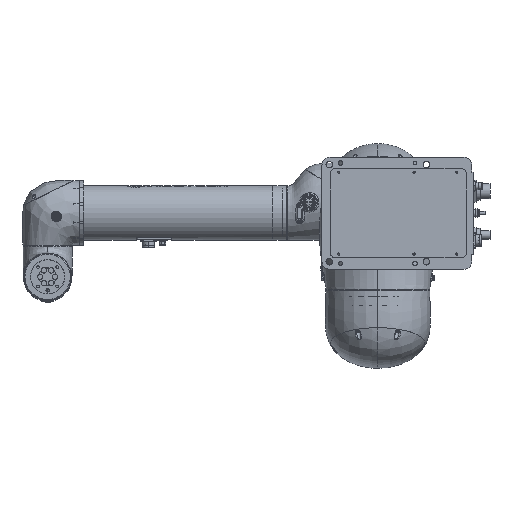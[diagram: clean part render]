
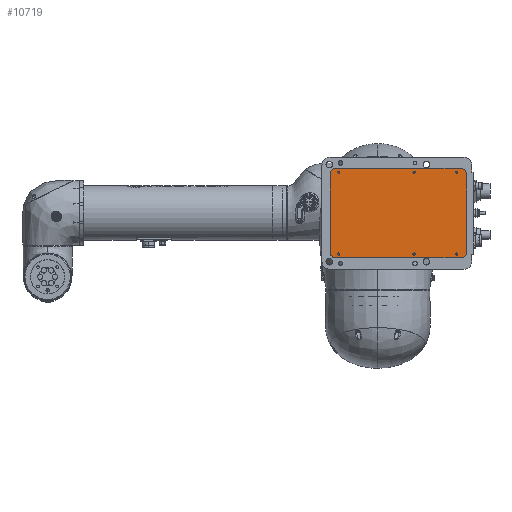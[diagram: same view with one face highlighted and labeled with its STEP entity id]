
A CAD part, front view. The second image highlights one B-rep face of the part: STEP entity #10719.
In plain terms, the highlighted planar face has unit normal (0, -1, 0).
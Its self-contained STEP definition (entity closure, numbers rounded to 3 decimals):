
#6606=PLANE('',#39532);
#7220=FACE_BOUND('',#14891,.T.);
#7221=FACE_BOUND('',#14892,.T.);
#7222=FACE_BOUND('',#14893,.T.);
#7223=FACE_BOUND('',#14894,.T.);
#7224=FACE_BOUND('',#14895,.T.);
#7225=FACE_BOUND('',#14896,.T.);
#7226=FACE_BOUND('',#14897,.T.);
#10719=ADVANCED_FACE('NONE',(#7220,#7221,#7222,#7223,#7224,#7225,#7226),
#6606,.T.);
#14891=EDGE_LOOP('',(#25827,#25828,#25829,#25830,#25831,#25832,#25833,#25834));
#14892=EDGE_LOOP('',(#25835,#25836));
#14893=EDGE_LOOP('',(#25837,#25838));
#14894=EDGE_LOOP('',(#25839,#25840));
#14895=EDGE_LOOP('',(#25841,#25842));
#14896=EDGE_LOOP('',(#25843,#25844));
#14897=EDGE_LOOP('',(#25845,#25846));
#16569=LINE('',#305180,#18105);
#16572=LINE('',#305186,#18108);
#16575=LINE('',#305192,#18111);
#16576=LINE('',#305198,#18112);
#18105=VECTOR('',#47622,1.);
#18108=VECTOR('',#47627,1.);
#18111=VECTOR('',#47632,1.);
#18112=VECTOR('',#47637,1.);
#25827=ORIENTED_EDGE('',*,*,#33895,.T.);
#25828=ORIENTED_EDGE('',*,*,#33896,.T.);
#25829=ORIENTED_EDGE('',*,*,#33892,.T.);
#25830=ORIENTED_EDGE('',*,*,#33897,.T.);
#25831=ORIENTED_EDGE('',*,*,#33898,.T.);
#25832=ORIENTED_EDGE('',*,*,#33899,.T.);
#25833=ORIENTED_EDGE('',*,*,#33889,.T.);
#25834=ORIENTED_EDGE('',*,*,#33900,.T.);
#25835=ORIENTED_EDGE('',*,*,#33901,.F.);
#25836=ORIENTED_EDGE('',*,*,#33755,.F.);
#25837=ORIENTED_EDGE('',*,*,#33902,.F.);
#25838=ORIENTED_EDGE('',*,*,#33759,.F.);
#25839=ORIENTED_EDGE('',*,*,#33903,.F.);
#25840=ORIENTED_EDGE('',*,*,#33731,.F.);
#25841=ORIENTED_EDGE('',*,*,#33904,.F.);
#25842=ORIENTED_EDGE('',*,*,#33737,.F.);
#25843=ORIENTED_EDGE('',*,*,#33905,.F.);
#25844=ORIENTED_EDGE('',*,*,#33743,.F.);
#25845=ORIENTED_EDGE('',*,*,#33906,.F.);
#25846=ORIENTED_EDGE('',*,*,#33749,.F.);
#29598=VERTEX_POINT('',#304801);
#29599=VERTEX_POINT('',#304803);
#29603=VERTEX_POINT('',#304814);
#29604=VERTEX_POINT('',#304816);
#29608=VERTEX_POINT('',#304827);
#29609=VERTEX_POINT('',#304829);
#29613=VERTEX_POINT('',#304840);
#29614=VERTEX_POINT('',#304842);
#29618=VERTEX_POINT('',#304853);
#29619=VERTEX_POINT('',#304855);
#29622=VERTEX_POINT('',#304862);
#29623=VERTEX_POINT('',#304864);
#29717=VERTEX_POINT('',#305181);
#29718=VERTEX_POINT('',#305182);
#29719=VERTEX_POINT('',#305187);
#29720=VERTEX_POINT('',#305188);
#29721=VERTEX_POINT('',#305193);
#29722=VERTEX_POINT('',#305194);
#29723=VERTEX_POINT('',#305197);
#29724=VERTEX_POINT('',#305199);
#33731=EDGE_CURVE('',#29598,#29599,#36069,.T.);
#33737=EDGE_CURVE('',#29603,#29604,#36071,.T.);
#33743=EDGE_CURVE('',#29608,#29609,#36073,.T.);
#33749=EDGE_CURVE('',#29613,#29614,#36075,.T.);
#33755=EDGE_CURVE('',#29618,#29619,#36077,.T.);
#33759=EDGE_CURVE('',#29622,#29623,#36079,.T.);
#33889=EDGE_CURVE('',#29717,#29718,#16569,.T.);
#33892=EDGE_CURVE('',#29719,#29720,#16572,.T.);
#33895=EDGE_CURVE('',#29721,#29722,#16575,.T.);
#33896=EDGE_CURVE('',#29722,#29719,#36140,.T.);
#33897=EDGE_CURVE('',#29720,#29723,#36141,.T.);
#33898=EDGE_CURVE('',#29723,#29724,#16576,.T.);
#33899=EDGE_CURVE('',#29724,#29717,#36142,.T.);
#33900=EDGE_CURVE('',#29718,#29721,#36143,.T.);
#33901=EDGE_CURVE('',#29619,#29618,#36144,.T.);
#33902=EDGE_CURVE('',#29623,#29622,#36145,.T.);
#33903=EDGE_CURVE('',#29599,#29598,#36146,.T.);
#33904=EDGE_CURVE('',#29604,#29603,#36147,.T.);
#33905=EDGE_CURVE('',#29609,#29608,#36148,.T.);
#33906=EDGE_CURVE('',#29614,#29613,#36149,.T.);
#36069=CIRCLE('',#39419,2.1);
#36071=CIRCLE('',#39423,2.1);
#36073=CIRCLE('',#39427,2.1);
#36075=CIRCLE('',#39431,2.1);
#36077=CIRCLE('',#39435,2.1);
#36079=CIRCLE('',#39438,2.1);
#36140=CIRCLE('',#39522,10.);
#36141=CIRCLE('',#39523,10.);
#36142=CIRCLE('',#39524,10.);
#36143=CIRCLE('',#39525,10.);
#36144=CIRCLE('',#39526,2.1);
#36145=CIRCLE('',#39527,2.1);
#36146=CIRCLE('',#39528,2.1);
#36147=CIRCLE('',#39529,2.1);
#36148=CIRCLE('',#39530,2.1);
#36149=CIRCLE('',#39531,2.1);
#39419=AXIS2_PLACEMENT_3D('',#304802,#47337,#47338);
#39423=AXIS2_PLACEMENT_3D('',#304815,#47349,#47350);
#39427=AXIS2_PLACEMENT_3D('',#304828,#47361,#47362);
#39431=AXIS2_PLACEMENT_3D('',#304841,#47373,#47374);
#39435=AXIS2_PLACEMENT_3D('',#304854,#47385,#47386);
#39438=AXIS2_PLACEMENT_3D('',#304863,#47393,#47394);
#39522=AXIS2_PLACEMENT_3D('',#305195,#47633,#47634);
#39523=AXIS2_PLACEMENT_3D('',#305196,#47635,#47636);
#39524=AXIS2_PLACEMENT_3D('',#305200,#47638,#47639);
#39525=AXIS2_PLACEMENT_3D('',#305201,#47640,#47641);
#39526=AXIS2_PLACEMENT_3D('',#305202,#47642,#47643);
#39527=AXIS2_PLACEMENT_3D('',#305203,#47644,#47645);
#39528=AXIS2_PLACEMENT_3D('',#305204,#47646,#47647);
#39529=AXIS2_PLACEMENT_3D('',#305205,#47648,#47649);
#39530=AXIS2_PLACEMENT_3D('',#305206,#47650,#47651);
#39531=AXIS2_PLACEMENT_3D('',#305207,#47652,#47653);
#39532=AXIS2_PLACEMENT_3D('',#305208,#47654,#47655);
#47337=DIRECTION('',(0.,-1.,0.));
#47338=DIRECTION('',(0.,0.,-1.));
#47349=DIRECTION('',(0.,-1.,0.));
#47350=DIRECTION('',(0.,0.,-1.));
#47361=DIRECTION('',(0.,-1.,0.));
#47362=DIRECTION('',(0.,0.,-1.));
#47373=DIRECTION('',(0.,-1.,0.));
#47374=DIRECTION('',(0.,0.,-1.));
#47385=DIRECTION('',(0.,-1.,0.));
#47386=DIRECTION('',(0.,0.,-1.));
#47393=DIRECTION('',(0.,-1.,0.));
#47394=DIRECTION('',(0.,0.,-1.));
#47622=DIRECTION('',(-1.,0.,0.));
#47627=DIRECTION('',(1.,0.,0.));
#47632=DIRECTION('',(0.,0.,-1.));
#47633=DIRECTION('',(0.,-1.,0.));
#47634=DIRECTION('',(0.,0.,-1.));
#47635=DIRECTION('',(0.,-1.,0.));
#47636=DIRECTION('',(0.,0.,-1.));
#47637=DIRECTION('',(0.,0.,1.));
#47638=DIRECTION('',(0.,-1.,0.));
#47639=DIRECTION('',(0.,0.,-1.));
#47640=DIRECTION('',(0.,-1.,0.));
#47641=DIRECTION('',(0.,0.,-1.));
#47642=DIRECTION('',(0.,-1.,0.));
#47643=DIRECTION('',(0.,0.,-1.));
#47644=DIRECTION('',(0.,-1.,0.));
#47645=DIRECTION('',(0.,0.,-1.));
#47646=DIRECTION('',(0.,-1.,0.));
#47647=DIRECTION('',(0.,0.,-1.));
#47648=DIRECTION('',(0.,-1.,0.));
#47649=DIRECTION('',(0.,0.,-1.));
#47650=DIRECTION('',(0.,-1.,0.));
#47651=DIRECTION('',(0.,0.,-1.));
#47652=DIRECTION('',(0.,-1.,0.));
#47653=DIRECTION('',(0.,0.,-1.));
#47654=DIRECTION('',(0.,-1.,0.));
#47655=DIRECTION('',(0.,0.,-1.));
#304801=CARTESIAN_POINT('',(144.5,5.5,77.1));
#304802=CARTESIAN_POINT('',(144.5,5.5,75.));
#304803=CARTESIAN_POINT('',(144.5,5.5,72.9));
#304814=CARTESIAN_POINT('',(66.5,5.5,77.1));
#304815=CARTESIAN_POINT('',(66.5,5.5,75.));
#304816=CARTESIAN_POINT('',(66.5,5.5,72.9));
#304827=CARTESIAN_POINT('',(66.5,5.5,-72.9));
#304828=CARTESIAN_POINT('',(66.5,5.5,-75.));
#304829=CARTESIAN_POINT('',(66.5,5.5,-77.1));
#304840=CARTESIAN_POINT('',(144.5,5.5,-72.9));
#304841=CARTESIAN_POINT('',(144.5,5.5,-75.));
#304842=CARTESIAN_POINT('',(144.5,5.5,-77.1));
#304853=CARTESIAN_POINT('',(-71.5,5.5,-72.9));
#304854=CARTESIAN_POINT('',(-71.5,5.5,-75.));
#304855=CARTESIAN_POINT('',(-71.5,5.5,-77.1));
#304862=CARTESIAN_POINT('',(-71.5,5.5,77.1));
#304863=CARTESIAN_POINT('',(-71.5,5.5,75.));
#304864=CARTESIAN_POINT('',(-71.5,5.5,72.9));
#305180=CARTESIAN_POINT('',(162.5,5.5,82.));
#305181=CARTESIAN_POINT('',(152.5,5.5,82.));
#305182=CARTESIAN_POINT('',(-77.5,5.5,82.));
#305186=CARTESIAN_POINT('',(162.5,5.5,-82.));
#305187=CARTESIAN_POINT('',(-77.5,5.5,-82.));
#305188=CARTESIAN_POINT('',(152.5,5.5,-82.));
#305192=CARTESIAN_POINT('',(-87.5,5.5,-82.));
#305193=CARTESIAN_POINT('',(-87.5,5.5,72.));
#305194=CARTESIAN_POINT('',(-87.5,5.5,-72.));
#305195=CARTESIAN_POINT('',(-77.5,5.5,-72.));
#305196=CARTESIAN_POINT('',(152.5,5.5,-72.));
#305197=CARTESIAN_POINT('',(162.5,5.5,-72.));
#305198=CARTESIAN_POINT('',(162.5,5.5,-82.));
#305199=CARTESIAN_POINT('',(162.5,5.5,72.));
#305200=CARTESIAN_POINT('',(152.5,5.5,72.));
#305201=CARTESIAN_POINT('',(-77.5,5.5,72.));
#305202=CARTESIAN_POINT('',(-71.5,5.5,-75.));
#305203=CARTESIAN_POINT('',(-71.5,5.5,75.));
#305204=CARTESIAN_POINT('',(144.5,5.5,75.));
#305205=CARTESIAN_POINT('',(66.5,5.5,75.));
#305206=CARTESIAN_POINT('',(66.5,5.5,-75.));
#305207=CARTESIAN_POINT('',(144.5,5.5,-75.));
#305208=CARTESIAN_POINT('',(0.,5.5,0.));
